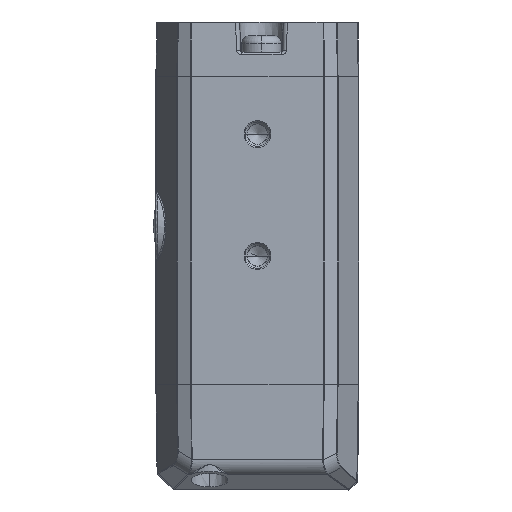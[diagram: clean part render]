
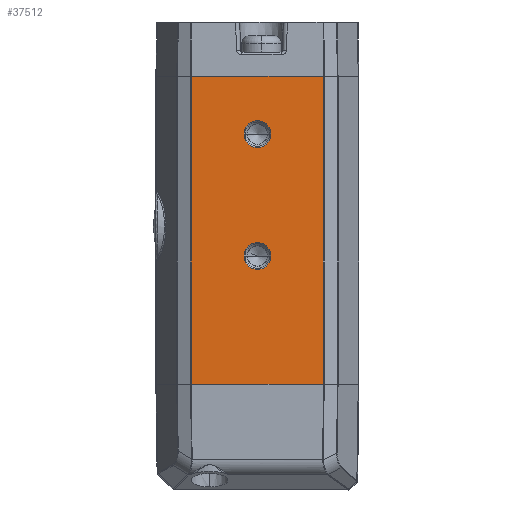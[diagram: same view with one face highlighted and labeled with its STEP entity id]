
A CAD part, left-side view. The second image highlights one B-rep face of the part: STEP entity #37512.
In plain terms, the highlighted planar face has unit normal (-1, 0, 0).
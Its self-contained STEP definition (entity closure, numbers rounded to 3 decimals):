
#25400=CARTESIAN_POINT('',(-23.,0.,28.8));
#25401=DIRECTION('',(1.,0.,0.));
#25402=DIRECTION('',(0.,1.,0.));
#25403=AXIS2_PLACEMENT_3D('',#25400,#25401,#25402);
#25405=CARTESIAN_POINT('',(-23.,0.,28.8));
#25406=DIRECTION('',(1.,0.,0.));
#25407=DIRECTION('',(0.,-1.,0.));
#25408=AXIS2_PLACEMENT_3D('',#25405,#25406,#25407);
#25410=CARTESIAN_POINT('',(-23.,0.,43.8));
#25411=DIRECTION('',(1.,0.,0.));
#25412=DIRECTION('',(0.,1.,0.));
#25413=AXIS2_PLACEMENT_3D('',#25410,#25411,#25412);
#25415=CARTESIAN_POINT('',(-23.,0.,43.8));
#25416=DIRECTION('',(1.,0.,0.));
#25417=DIRECTION('',(0.,-1.,0.));
#25418=AXIS2_PLACEMENT_3D('',#25415,#25416,#25417);
#25420=DIRECTION('',(0.,0.,1.));
#25421=VECTOR('',#25420,37.9);
#25422=CARTESIAN_POINT('',(-23.,-8.12,13.));
#25423=LINE('',#25422,#25421);
#25442=DIRECTION('',(0.,1.,0.));
#25443=VECTOR('',#25442,16.239);
#25444=CARTESIAN_POINT('',(-23.,-8.12,50.9));
#25445=LINE('',#25444,#25443);
#26195=DIRECTION('',(0.,-1.,0.));
#26196=VECTOR('',#26195,16.239);
#26197=CARTESIAN_POINT('',(-23.,8.12,13.));
#26198=LINE('',#26197,#26196);
#27550=DIRECTION('',(0.,0.,-1.));
#27551=VECTOR('',#27550,37.9);
#27552=CARTESIAN_POINT('',(-23.,8.12,50.9));
#27553=LINE('',#27552,#27551);
#35718=CARTESIAN_POINT('',(-23.,-8.12,13.));
#35719=CARTESIAN_POINT('',(-23.,-8.12,50.9));
#35720=VERTEX_POINT('',#35718);
#35721=VERTEX_POINT('',#35719);
#35722=CARTESIAN_POINT('',(-23.,8.12,13.));
#35723=VERTEX_POINT('',#35722);
#35724=CARTESIAN_POINT('',(-23.,8.12,50.9));
#35725=VERTEX_POINT('',#35724);
#35726=CARTESIAN_POINT('',(-23.,1.65,28.8));
#35727=CARTESIAN_POINT('',(-23.,-1.65,28.8));
#35728=VERTEX_POINT('',#35726);
#35729=VERTEX_POINT('',#35727);
#35730=CARTESIAN_POINT('',(-23.,1.65,43.8));
#35731=CARTESIAN_POINT('',(-23.,-1.65,43.8));
#35732=VERTEX_POINT('',#35730);
#35733=VERTEX_POINT('',#35731);
#37485=CARTESIAN_POINT('',(-23.,0.,31.95));
#37486=DIRECTION('',(1.,0.,0.));
#37487=DIRECTION('',(0.,-1.,0.));
#37488=AXIS2_PLACEMENT_3D('',#37485,#37486,#37487);
#37489=PLANE('',#37488);
#37491=ORIENTED_EDGE('',*,*,#37490,.F.);
#37493=ORIENTED_EDGE('',*,*,#37492,.F.);
#37495=ORIENTED_EDGE('',*,*,#37494,.F.);
#37497=ORIENTED_EDGE('',*,*,#37496,.F.);
#37498=EDGE_LOOP('',(#37491,#37493,#37495,#37497));
#37499=FACE_OUTER_BOUND('',#37498,.F.);
#37501=ORIENTED_EDGE('',*,*,#37500,.F.);
#37503=ORIENTED_EDGE('',*,*,#37502,.F.);
#37504=EDGE_LOOP('',(#37501,#37503));
#37505=FACE_BOUND('',#37504,.F.);
#37507=ORIENTED_EDGE('',*,*,#37506,.F.);
#37509=ORIENTED_EDGE('',*,*,#37508,.F.);
#37510=EDGE_LOOP('',(#37507,#37509));
#37511=FACE_BOUND('',#37510,.F.);
#37512=ADVANCED_FACE('',(#37499,#37505,#37511),#37489,.F.);
#25404=CIRCLE('',#25403,1.65);
#25409=CIRCLE('',#25408,1.65);
#25414=CIRCLE('',#25413,1.65);
#25419=CIRCLE('',#25418,1.65);
#37490=EDGE_CURVE('',#35720,#35721,#25423,.T.);
#37492=EDGE_CURVE('',#35723,#35720,#26198,.T.);
#37494=EDGE_CURVE('',#35725,#35723,#27553,.T.);
#37496=EDGE_CURVE('',#35721,#35725,#25445,.T.);
#37500=EDGE_CURVE('',#35728,#35729,#25404,.T.);
#37502=EDGE_CURVE('',#35729,#35728,#25409,.T.);
#37506=EDGE_CURVE('',#35732,#35733,#25414,.T.);
#37508=EDGE_CURVE('',#35733,#35732,#25419,.T.);
